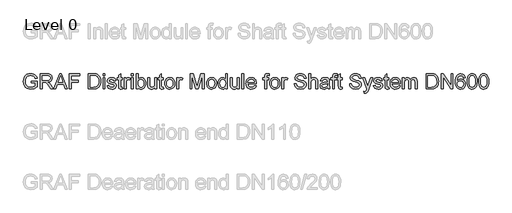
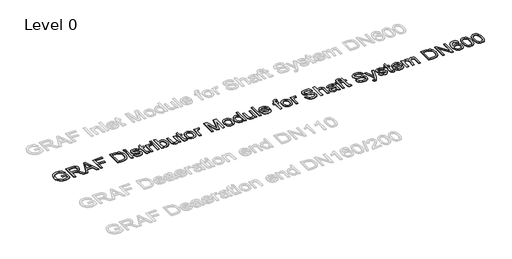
# One storey, part 7 of 25: 1 proxy.
"""IFC4 building model written with IfcOpenShell, lengths in millimetres."""

from ifc_helpers import new_model, si_unit, origin, origin_with_axes, place, context, project, spatial, polyline, outline, extrude, element, save

model = new_model("IFC4")

# Units and contexts
model_context = context("Model", 3, world=origin())
ifc_project = project(units=[si_unit("LENGTHUNIT", "METRE", prefix="MILLI")], contexts=[model_context])

# Site, building, storey
site = spatial("IfcSite", under=ifc_project)
building = spatial("IfcBuilding", under=site)
storey = spatial("IfcBuildingStorey", under=building, Name="Level 0", Elevation=0.0)

# Proxy
placement = place(None, origin())
element("IfcBuildingElementProxy", 1, Name="300mm Arial", ObjectType="300mm Arial", at=placement, inside=storey, context=model_context, shape_type="SweptSolid", body=[
    extrude(outline(polyline([(-15240.9940387, -5083.2545597), (-15240.9940387, -5045.5834434), (-15118.5629107, -5045.5834434), (-15118.5629107, -5158.2289103), (-15148.3153671, -5178.9222726), (-15179.0059225, -5193.7663111), (-15210.5610007, -5202.7058436), (-15242.9070251, -5205.6856877), (-15285.1674693, -5200.949207), (-15323.3628175, -5186.739765), (-15355.0926395, -5163.5540022), (-15377.9565055, -5131.8885595), (-15391.7796715, -5093.9047435), (-15396.3873935, -5051.7638609), (-15391.7980656, -5009.3194757), (-15378.0300819, -4969.8365406), (-15355.6536596, -4936.717964), (-15325.2390156, -4913.3666543), (-15288.1932987, -4899.5158972), (-15245.9236575, -4894.8989782), (-15214.8928112, -4897.5753197), (-15186.9889618, -4905.6043443), (-15163.4904994, -4918.4066377), (-15145.6758138, -4935.4027859), (-15132.4964413, -4957.4113262), (-15122.9039183, -4985.2507962), (-15157.6319786, -4995.0364573), (-15165.3850917, -4975.1800266), (-15174.8120678, -4960.1980323), (-15187.2832674, -4948.9040551), (-15204.169051, -4940.1116754), (-15224.3013932, -4934.4554897), (-15246.5122687, -4932.5700945), (-15272.5123287, -4934.6026425), (-15294.7415982, -4940.7002866), (-15313.1173039, -4950.0996716), (-15327.5566722, -4962.0374423), (-15346.9440533, -4991.0633317), (-15355.7732212, -5019.50061), (-15358.7162772, -5050.2187566), (-15355.175413, -5086.2436009), (-15344.5528204, -5115.8856927), (-15327.1703961, -5138.9334997), (-15303.3500369, -5155.1754898), (-15275.4737787, -5164.804801), (-15245.9236575, -5168.0145714), (-15219.831627, -5165.5957473), (-15194.3833899, -5158.3392749), (-15172.2828791, -5148.3420817), (-15156.234027, -5137.701095), (-15156.234027, -5083.2545597), (-15240.9940387, -5083.2545597)])), origin_with_axes(), (0.0, 0.0, 1.0), 10.0),
    extrude(outline(polyline([(-15057.3473467, -5200.9767982), (-15057.3473467, -4899.6078677), (-14927.4850024, -4899.6078677), (-14892.5821982, -4901.6404158), (-14867.1891434, -4907.7380598), (-14848.6294968, -4918.9952489), (-14834.2269167, -4936.5064318), (-14824.9838815, -4958.2206666), (-14821.9028698, -4982.087011), (-14827.0072325, -5011.7750881), (-14842.3203206, -5036.3863935), (-14853.9200997, -5046.4157764), (-14868.3019865, -5054.4310054), (-14905.4120827, -5064.4190016), (-14884.0013506, -5080.532233), (-14853.467145, -5119.3069952), (-14803.2144645, -5200.9767982), (-14846.9924219, -5200.9767982), (-14886.2086426, -5138.5104354), (-14914.5355562, -5097.1604991), (-14934.4379722, -5077.6259652), (-14952.3538253, -5070.4522663), (-14974.2060158, -5069.1278911), (-15019.6762304, -5069.1278911), (-15019.6762304, -5200.9767982), (-15057.3473467, -5200.9767982)]), holes=[polyline([(-15019.6762304, -5031.4567748), (-14935.3576771, -5031.4567748), (-14911.1418448, -5030.1232026), (-14892.3522719, -5026.1224859), (-14878.2072092, -5019.1879103), (-14867.9249074, -5009.0527613), (-14861.6617165, -4996.7930938), (-14859.5739861, -4983.4849626), (-14863.5563087, -4965.109257), (-14875.5032765, -4950.3020067), (-14896.058683, -4940.5347397), (-14925.8663217, -4937.278984), (-15019.6762304, -4937.278984), (-15019.6762304, -5031.4567748)])]), origin_with_axes(), (0.0, 0.0, 1.0), 10.0),
    extrude(outline(polyline([(-14791.0743586, -5200.9767982), (-14670.7769462, -4899.6078677), (-14638.6976362, -4899.6078677), (-14518.4002238, -5200.9767982), (-14558.2050557, -5200.9767982), (-14592.7123868, -5106.7990074), (-14716.835772, -5106.7990074), (-14751.2695268, -5200.9767982), (-14791.0743586, -5200.9767982)]), holes=[polyline([(-14703.003409, -5069.1278911), (-14606.4711735, -5069.1278911), (-14633.6208647, -4995.0364573), (-14654.7372912, -4937.278984), (-14673.499273, -4988.5617342), (-14703.003409, -5069.1278911)])]), origin_with_axes(), (0.0, 0.0, 1.0), 10.0),
    extrude(outline(polyline([(-14478.1539335, -5200.9767982), (-14478.1539335, -4899.6078677), (-14275.6716834, -4899.6078677), (-14275.6716834, -4937.278984), (-14440.4828172, -4937.278984), (-14440.4828172, -5026.7478853), (-14299.2161311, -5026.7478853), (-14299.2161311, -5064.4190016), (-14440.4828172, -5064.4190016), (-14440.4828172, -5200.9767982), (-14478.1539335, -5200.9767982)])), origin_with_axes(), (0.0, 0.0, 1.0), 10.0),
    extrude(outline(polyline([(-14106.15166, -5200.9767982), (-14106.15166, -4899.6078677), (-14002.1882082, -4899.6078677), (-13948.4038605, -4903.9488753), (-13924.3811662, -4912.3181907), (-13904.1108683, -4925.5067602), (-13883.2703532, -4948.4625967), (-13868.4263147, -4977.0102395), (-13859.5419645, -5010.5978657), (-13856.5805145, -5048.6736522), (-13858.5854714, -5081.0196766), (-13864.600342, -5109.484546), (-13873.7606037, -5133.7187724), (-13885.2017337, -5153.372868), (-13898.3719091, -5168.8882911), (-13912.719307, -5180.7065002), (-13929.1912233, -5189.4712888), (-13948.7349543, -5195.8264502), (-13997.185013, -5200.9767982), (-14106.15166, -5200.9767982)]), holes=[polyline([(-14068.4805437, -5163.3056819), (-14001.8203262, -5163.3056819), (-13974.2475706, -5161.9445185), (-13953.3334792, -5157.8610283), (-13937.5513416, -5151.2943347), (-13925.3744476, -5142.4835609), (-13912.2870456, -5126.1771915), (-13902.4553993, -5105.069962), (-13896.3025729, -5079.069902), (-13894.2516308, -5048.085041), (-13898.2707416, -5007.0294103), (-13910.328074, -4976.7159339), (-13928.1427596, -4955.893813), (-13949.4339301, -4943.3122488), (-13971.1021796, -4938.7873002), (-14002.8503958, -4937.278984), (-14068.4805437, -4937.278984), (-14068.4805437, -5163.3056819)])]), origin_with_axes(), (0.0, 0.0, 1.0), 10.0),
    extrude(outline(polyline([(-13809.4916191, -4937.278984), (-13809.4916191, -4899.6078677), (-13771.8205028, -4899.6078677), (-13771.8205028, -4937.278984), (-13809.4916191, -4937.278984)])), origin_with_axes(), (0.0, 0.0, 1.0), 10.0),
    extrude(outline(polyline([(-13809.4916191, -5200.9767982), (-13809.4916191, -4979.6589899), (-13771.8205028, -4979.6589899), (-13771.8205028, -5200.9767982), (-13809.4916191, -5200.9767982)])), origin_with_axes(), (0.0, 0.0, 1.0), 10.0),
    extrude(outline(polyline([(-13729.440497, -5135.0523446), (-13691.7693806, -5130.3434551), (-13685.8280864, -5146.4566865), (-13674.3317741, -5158.3024867), (-13657.2068672, -5165.5865502), (-13634.3797894, -5168.0145714), (-13611.8286231, -5165.7888853), (-13595.9729091, -5159.1118271), (-13586.5919182, -5149.4365307), (-13583.4649213, -5138.2161298), (-13586.6103123, -5128.6144097), (-13596.0464855, -5121.293558), (-13634.8212478, -5110.5514038), (-13691.5486515, -5092.1205158), (-13705.9052463, -5082.8590866), (-13716.3071097, -5070.5994191), (-13722.625483, -5056.1232626), (-13724.7316074, -5040.2123663), (-13723.0393502, -5025.6166481), (-13717.9625787, -5012.1429701), (-13709.9611453, -5000.324761), (-13699.4949025, -4990.6954497), (-13675.5457847, -4979.5486253), (-13643.1353809, -4974.9501003), (-13618.6160459, -4976.7987074), (-13597.2972843, -4982.3445284), (-13580.1539833, -4991.0449376), (-13568.1610303, -5002.357309), (-13560.2147792, -5017.118574), (-13555.211584, -5036.1656643), (-13592.8827003, -5040.8745539), (-13597.6375751, -5029.0195566), (-13607.0461572, -5020.0892211), (-13621.2004169, -5014.4882178), (-13640.1923249, -5012.6212166), (-13661.8237862, -5014.4054443), (-13676.2447605, -5019.7581274), (-13684.3565584, -5027.4836493), (-13687.0604911, -5036.3863935), (-13682.5723308, -5047.349277), (-13668.5192386, -5055.6634101), (-13636.0720466, -5063.6832376), (-13580.7793827, -5081.4151497), (-13566.1744675, -5089.8948297), (-13555.1012194, -5101.5015067), (-13548.1206586, -5116.2719688), (-13545.793805, -5134.2430043), (-13548.5253288, -5152.821045), (-13556.7199002, -5170.2954398), (-13570.0648196, -5185.2958281), (-13588.2473872, -5196.4518496), (-13610.2099423, -5203.3772282), (-13634.8948242, -5205.6856877), (-13672.8786402, -5201.2343156), (-13700.5985485, -5187.8801991), (-13719.1030129, -5165.7704912), (-13729.440497, -5135.0523446)])), origin_with_axes(), (0.0, 0.0, 1.0), 10.0),
    extrude(outline(polyline([(-13423.362677, -5169.5596758), (-13418.6537874, -5202.0804442), (-13446.8335483, -5205.6856877), (-13464.9149483, -5204.1221892), (-13478.3978234, -5199.4316938), (-13487.9259671, -5192.2028126), (-13494.1431728, -5183.0241568), (-13497.5644754, -5167.2604133), (-13498.7049096, -5140.276269), (-13498.7049096, -5017.3301062), (-13526.9582468, -5017.3301062), (-13526.9582468, -4979.6589899), (-13498.7049096, -4979.6589899), (-13498.7049096, -4925.8746422), (-13461.0337933, -4903.7281461), (-13461.0337933, -4979.6589899), (-13423.362677, -4979.6589899), (-13423.362677, -5017.3301062), (-13461.0337933, -5017.3301062), (-13461.0337933, -5139.172623), (-13459.0472305, -5158.5967923), (-13452.6092956, -5165.4761856), (-13439.770214, -5168.0145714), (-13423.362677, -5169.5596758)])), origin_with_axes(), (0.0, 0.0, 1.0), 10.0),
    extrude(outline(polyline([(-13385.6915607, -5200.9767982), (-13385.6915607, -4979.6589899), (-13352.7293339, -4979.6589899), (-13352.7293339, -5012.4004875), (-13340.5524399, -4993.4177765), (-13329.332039, -4982.2341638), (-13318.0748499, -4976.7711162), (-13305.7875913, -4974.9501003), (-13287.0256096, -4977.8563681), (-13267.9693222, -4986.5751714), (-13280.5508864, -5020.3467385), (-13293.7946383, -5014.5525971), (-13307.0383901, -5012.6212166), (-13318.2863821, -5014.4790207), (-13328.3387576, -5020.052433), (-13336.4597527, -5028.918389), (-13341.9136032, -5040.6538247), (-13346.4937341, -5061.6966748), (-13348.0204444, -5084.6525113), (-13348.0204444, -5200.9767982), (-13385.6915607, -5200.9767982)])), origin_with_axes(), (0.0, 0.0, 1.0), 10.0),
    extrude(outline(polyline([(-13244.4248745, -4937.278984), (-13244.4248745, -4899.6078677), (-13206.7537582, -4899.6078677), (-13206.7537582, -4937.278984), (-13244.4248745, -4937.278984)])), origin_with_axes(), (0.0, 0.0, 1.0), 10.0),
    extrude(outline(polyline([(-13244.4248745, -5200.9767982), (-13244.4248745, -4979.6589899), (-13206.7537582, -4979.6589899), (-13206.7537582, -5200.9767982), (-13244.4248745, -5200.9767982)])), origin_with_axes(), (0.0, 0.0, 1.0), 10.0),
    extrude(outline(polyline([(-13112.5759674, -5200.9767982), (-13150.2470837, -5200.9767982), (-13150.2470837, -4899.6078677), (-13112.5759674, -4899.6078677), (-13112.5759674, -5011.3704179), (-13100.1875413, -4995.4365289), (-13086.1988284, -4984.0551797), (-13070.6098288, -4977.2263702), (-13053.4205426, -4974.9501003), (-13034.0147674, -4977.0010425), (-13015.6758499, -4983.1538688), (-12999.4522539, -4993.0223034), (-12986.3924431, -5006.2200699), (-12976.1561266, -5022.6184099), (-12968.4030135, -5042.0885645), (-12963.51938, -5063.8211933), (-12961.8915022, -5087.0069561), (-12963.5768616, -5113.7611742), (-12968.6329398, -5137.2964248), (-12977.0597367, -5157.612708), (-12988.8572525, -5174.7100237), (-13003.01841, -5188.2618767), (-13018.5361324, -5197.9417717), (-13035.4104197, -5203.7497087), (-13053.6412718, -5205.6856877), (-13071.3961766, -5203.1886887), (-13087.1369275, -5195.6976915), (-13100.8635244, -5183.2126963), (-13112.5759674, -5165.733703), (-13112.5759674, -5200.9767982)]), holes=[polyline([(-13112.5759674, -5088.7727896), (-13110.0007935, -5120.189912), (-13102.2752716, -5141.4534914), (-13093.1471996, -5153.0739639), (-13082.5384025, -5161.3743014), (-13070.4488805, -5166.3545039), (-13056.8786334, -5168.0145714), (-13035.1368075, -5163.1217409), (-13016.5587667, -5148.4432493), (-13003.8116556, -5124.0710671), (-12999.5626185, -5090.0971648), (-13003.6369116, -5055.6266219), (-13015.8597909, -5031.5303512), (-13033.8584175, -5017.3485003), (-13055.2599526, -5012.6212166), (-13077.0017785, -5017.5140472), (-13095.5798193, -5032.1925388), (-13108.3269304, -5056.1232626), (-13112.5759674, -5088.7727896)])]), origin_with_axes(), (0.0, 0.0, 1.0), 10.0),
    extrude(outline(polyline([(-12778.2448102, -5200.9767982), (-12778.2448102, -5162.9377999), (-12791.8748381, -5181.6400008), (-12807.7489462, -5194.9987158), (-12825.8671345, -5203.0139447), (-12846.2294029, -5205.6856877), (-12864.5775174, -5203.8094895), (-12881.6564391, -5198.180895), (-12895.9854428, -5189.7196091), (-12906.0838035, -5179.3453369), (-12917.3042044, -5151.6070344), (-12919.5114964, -5116.5846685), (-12919.5114964, -4979.6589899), (-12881.8403801, -4979.6589899), (-12881.8403801, -5098.8527563), (-12879.5595117, -5137.2596366), (-12874.0688729, -5150.0711271), (-12864.6602909, -5159.8108029), (-12851.959165, -5165.9636293), (-12836.5908947, -5168.0145714), (-12820.3397075, -5165.917644), (-12805.1369841, -5159.6268619), (-12792.6014051, -5149.7216392), (-12784.3516513, -5136.78139), (-12779.7715205, -5119.0586749), (-12778.2448102, -5094.8060544), (-12778.2448102, -4979.6589899), (-12740.5736939, -4979.6589899), (-12740.5736939, -5200.9767982), (-12778.2448102, -5200.9767982)])), origin_with_axes(), (0.0, 0.0, 1.0), 10.0),
    extrude(outline(polyline([(-12608.7247868, -5169.5596758), (-12604.0158973, -5202.0804442), (-12632.1956581, -5205.6856877), (-12650.2770582, -5204.1221892), (-12663.7599333, -5199.4316938), (-12673.288077, -5192.2028126), (-12679.5052827, -5183.0241568), (-12682.9265853, -5167.2604133), (-12684.0670195, -5140.276269), (-12684.0670195, -5017.3301062), (-12712.3203567, -5017.3301062), (-12712.3203567, -4979.6589899), (-12684.0670195, -4979.6589899), (-12684.0670195, -4925.8746422), (-12646.3959032, -4903.7281461), (-12646.3959032, -4979.6589899), (-12608.7247868, -4979.6589899), (-12608.7247868, -5017.3301062), (-12646.3959032, -5017.3301062), (-12646.3959032, -5139.172623), (-12644.4093404, -5158.5967923), (-12637.9714055, -5165.4761856), (-12625.1323238, -5168.0145714), (-12608.7247868, -5169.5596758)])), origin_with_axes(), (0.0, 0.0, 1.0), 10.0),
    extrude(outline(polyline([(-12580.4714496, -5090.317894), (-12578.4343031, -5061.6552881), (-12572.3228634, -5036.9566106), (-12562.1371307, -5016.2218617), (-12547.8771048, -4999.4510412), (-12533.52051, -4988.7318796), (-12517.673993, -4981.0753356), (-12500.337554, -4976.4814091), (-12481.5111929, -4974.9501003), (-12460.7281594, -4976.8148022), (-12441.9362873, -4982.4089078), (-12425.1355764, -4991.7324171), (-12410.3260268, -5004.7853302), (-12398.238804, -5021.1261885), (-12389.6050735, -5040.3135338), (-12384.4248351, -5062.3473661), (-12382.698089, -5087.2276853), (-12385.7515096, -5125.2850777), (-12394.9117713, -5154.2557848), (-12409.9121596, -5175.9516255), (-12430.4859602, -5192.1844185), (-12454.9225217, -5202.3103704), (-12481.5111929, -5205.6856877), (-12502.597729, -5203.8278836), (-12521.5643451, -5198.2544714), (-12538.4110413, -5188.965451), (-12553.1378174, -5175.9608225), (-12565.0962815, -5159.461315), (-12573.6380416, -5139.6876578), (-12578.7630976, -5116.6398508), (-12580.4714496, -5090.317894)]), holes=[polyline([(-12542.8003333, -5090.2443176), (-12538.4409317, -5124.3377815), (-12525.3627267, -5148.6271903), (-12505.68104, -5163.1677261), (-12481.5111929, -5168.0145714), (-12457.4517104, -5163.140135), (-12437.8068119, -5148.5168257), (-12424.728607, -5123.9055202), (-12420.3692053, -5089.0670952), (-12424.7561981, -5055.9669127), (-12437.9171765, -5032.0085978), (-12457.5896662, -5017.4680619), (-12481.5111929, -5012.6212166), (-12505.68104, -5017.4496678), (-12525.3627267, -5031.9350214), (-12538.4409317, -5056.1692478), (-12542.8003333, -5090.2443176)])]), origin_with_axes(), (0.0, 0.0, 1.0), 10.0),
    extrude(outline(polyline([(-12340.3180832, -5200.9767982), (-12340.3180832, -4979.6589899), (-12307.3558564, -4979.6589899), (-12307.3558564, -5012.4004875), (-12295.1789624, -4993.4177765), (-12283.9585615, -4982.2341638), (-12272.7013725, -4976.7711162), (-12260.4141138, -4974.9501003), (-12241.6521321, -4977.8563681), (-12222.5958447, -4986.5751714), (-12235.1774089, -5020.3467385), (-12248.4211608, -5014.5525971), (-12261.6649126, -5012.6212166), (-12272.9129046, -5014.4790207), (-12282.9652801, -5020.052433), (-12291.0862752, -5028.918389), (-12296.5401257, -5040.6538247), (-12301.1202566, -5061.6966748), (-12302.6469669, -5084.6525113), (-12302.6469669, -5200.9767982), (-12340.3180832, -5200.9767982)])), origin_with_axes(), (0.0, 0.0, 1.0), 10.0),
    extrude(outline(polyline([(-12076.620269, -5200.9767982), (-12076.620269, -4899.6078677), (-12011.7994615, -4899.6078677), (-11950.1424391, -5112.0229317), (-11937.7080276, -5156.3895004), (-11924.2435466, -5108.3441118), (-11863.6165938, -4899.6078677), (-11798.7957863, -4899.6078677), (-11798.7957863, -5200.9767982), (-11836.4669026, -5200.9767982), (-11836.4669026, -4937.278984), (-11912.1770172, -5200.9767982), (-11963.2390381, -5200.9767982), (-12038.9491527, -4937.278984), (-12038.9491527, -5200.9767982), (-12076.620269, -5200.9767982)])), origin_with_axes(), (0.0, 0.0, 1.0), 10.0),
    extrude(outline(polyline([(-11746.9980013, -5090.317894), (-11744.9608548, -5061.6552881), (-11738.8494152, -5036.9566106), (-11728.6636824, -5016.2218617), (-11714.4036566, -4999.4510412), (-11700.0470617, -4988.7318796), (-11684.2005448, -4981.0753356), (-11666.8641057, -4976.4814091), (-11648.0377446, -4974.9501003), (-11627.2547112, -4976.8148022), (-11608.462839, -4982.4089078), (-11591.6621281, -4991.7324171), (-11576.8525786, -5004.7853302), (-11564.7653558, -5021.1261885), (-11556.1316252, -5040.3135338), (-11550.9513869, -5062.3473661), (-11549.2246407, -5087.2276853), (-11552.2780613, -5125.2850777), (-11561.438323, -5154.2557848), (-11576.4387113, -5175.9516255), (-11597.0125119, -5192.1844185), (-11621.4490734, -5202.3103704), (-11648.0377446, -5205.6856877), (-11669.1242808, -5203.8278836), (-11688.0908969, -5198.2544714), (-11704.937593, -5188.965451), (-11719.6643691, -5175.9608225), (-11731.6228332, -5159.461315), (-11740.1645933, -5139.6876578), (-11745.2896493, -5116.6398508), (-11746.9980013, -5090.317894)]), holes=[polyline([(-11709.326885, -5090.2443176), (-11704.9674834, -5124.3377815), (-11691.8892785, -5148.6271903), (-11672.2075917, -5163.1677261), (-11648.0377446, -5168.0145714), (-11623.9782622, -5163.140135), (-11604.3333636, -5148.5168257), (-11591.2551587, -5123.9055202), (-11586.895757, -5089.0670952), (-11591.2827498, -5055.9669127), (-11604.4437282, -5032.0085978), (-11624.1162179, -5017.4680619), (-11648.0377446, -5012.6212166), (-11672.2075917, -5017.4496678), (-11691.8892785, -5031.9350214), (-11704.9674834, -5056.1692478), (-11709.326885, -5090.2443176)])]), origin_with_axes(), (0.0, 0.0, 1.0), 10.0),
    extrude(outline(polyline([(-11370.2868383, -5200.9767982), (-11370.2868383, -5165.4393974), (-11381.5578229, -5183.0471494), (-11395.2108435, -5195.6241151), (-11411.2458999, -5203.1702946), (-11429.6629923, -5205.6856877), (-11454.0167804, -5202.043656), (-11476.3104293, -5191.1175607), (-11495.1827756, -5173.6707571), (-11509.2726561, -5150.4666002), (-11518.0466416, -5122.4431893), (-11520.9713035, -5090.5386232), (-11518.2765679, -5059.0295303), (-11510.192361, -5030.573858), (-11496.72788, -5006.790287), (-11477.8923219, -4989.2974982), (-11455.1112293, -4978.5369498), (-11429.8101451, -4974.9501003), (-11411.3792571, -4977.5160773), (-11395.0820848, -4985.214008), (-11381.2681158, -4997.013823), (-11370.2868383, -5011.8854527), (-11370.2868383, -4899.6078677), (-11332.615722, -4899.6078677), (-11332.615722, -5200.9767982), (-11370.2868383, -5200.9767982)]), holes=[polyline([(-11483.3001872, -5090.3914704), (-11479.0511502, -5124.4665402), (-11466.304039, -5148.7007667), (-11447.7811806, -5163.1861202), (-11426.2049016, -5168.0145714), (-11404.6378196, -5163.4068494), (-11386.5840107, -5149.5836835), (-11374.3611314, -5126.2875561), (-11370.2868383, -5093.26095), (-11374.4347078, -5057.1533322), (-11386.8783163, -5032.1189624), (-11405.3919777, -5017.4956531), (-11427.7500059, -5012.6212166), (-11449.5470141, -5017.302515), (-11467.407685, -5031.3464102), (-11479.3270617, -5055.470272), (-11483.3001872, -5090.3914704)])]), origin_with_axes(), (0.0, 0.0, 1.0), 10.0),
    extrude(outline(polyline([(-11134.8423614, -5200.9767982), (-11134.8423614, -5162.9377999), (-11148.4723893, -5181.6400008), (-11164.3464974, -5194.9987158), (-11182.4646856, -5203.0139447), (-11202.8269541, -5205.6856877), (-11221.1750686, -5203.8094895), (-11238.2539902, -5198.180895), (-11252.5829939, -5189.7196091), (-11262.6813547, -5179.3453369), (-11273.9017555, -5151.6070344), (-11276.1090475, -5116.5846685), (-11276.1090475, -4979.6589899), (-11238.4379312, -4979.6589899), (-11238.4379312, -5098.8527563), (-11236.1570628, -5137.2596366), (-11230.6664241, -5150.0711271), (-11221.257842, -5159.8108029), (-11208.5567162, -5165.9636293), (-11193.1884458, -5168.0145714), (-11176.9372587, -5165.917644), (-11161.7345352, -5159.6268619), (-11149.1989562, -5149.7216392), (-11140.9492025, -5136.78139), (-11136.3690717, -5119.0586749), (-11134.8423614, -5094.8060544), (-11134.8423614, -4979.6589899), (-11097.1712451, -4979.6589899), (-11097.1712451, -5200.9767982), (-11134.8423614, -5200.9767982)])), origin_with_axes(), (0.0, 0.0, 1.0), 10.0),
    extrude(outline(polyline([(-11045.3734601, -5200.9767982), (-11045.3734601, -4899.6078677), (-11007.7023438, -4899.6078677), (-11007.7023438, -5200.9767982), (-11045.3734601, -5200.9767982)])), origin_with_axes(), (0.0, 0.0, 1.0), 10.0),
    extrude(outline(polyline([(-10796.243773, -5135.0523446), (-10759.3084207, -5139.7612342), (-10772.6165519, -5167.5915071), (-10793.85254, -5188.3952339), (-10822.5381386, -5201.3630743), (-10858.195101, -5205.6856877), (-10881.5694033, -5203.8209859), (-10902.3961227, -5198.2268803), (-10920.6752594, -5188.9033709), (-10936.4068132, -5175.8504579), (-10949.0573553, -5159.4314246), (-10958.0934568, -5140.0095545), (-10963.5151177, -5117.5848477), (-10965.322338, -5092.157304), (-10963.4967236, -5065.8675369), (-10958.0198804, -5042.6955698), (-10948.8918084, -5022.6414025), (-10936.1125076, -5005.7050351), (-10920.4223405, -4992.2497512), (-10902.5616696, -4982.638834), (-10882.530495, -4976.8722838), (-10860.3288166, -4974.9501003), (-10838.8422088, -4976.8676852), (-10819.4111417, -4982.6204399), (-10802.0356152, -4992.2083644), (-10786.7156293, -5005.6314587), (-10774.2099408, -5022.5310379), (-10765.2773061, -5042.548417), (-10759.9177252, -5065.6835959), (-10758.1311983, -5091.9365748), (-10758.3519275, -5102.0901179), (-10927.6512217, -5102.0901179), (-10921.1305133, -5130.2882728), (-10905.9829722, -5151.0184232), (-10884.1215846, -5163.7655344), (-10857.459337, -5168.0145714), (-10837.4097683, -5166.0464027), (-10820.5239847, -5160.1418967), (-10806.8019863, -5149.9331713), (-10796.243773, -5135.0523446)]), holes=[polyline([(-10927.6512217, -5064.4190016), (-10795.8023146, -5064.4190016), (-10800.8974802, -5044.5165856), (-10810.8854764, -5030.2795524), (-10832.8480315, -5017.0358006), (-10860.4759694, -5012.6212166), (-10885.8690241, -5016.1436868), (-10906.865889, -5026.7110971), (-10921.4616071, -5043.1830134), (-10927.6512217, -5064.4190016)])]), origin_with_axes(), (0.0, 0.0, 1.0), 10.0),
    extrude(outline(polyline([(-10593.3200645, -5200.9767982), (-10593.3200645, -5017.3301062), (-10626.2822912, -5017.3301062), (-10626.2822912, -4979.6589899), (-10593.3200645, -4979.6589899), (-10593.3200645, -4957.365341), (-10589.3469389, -4925.9482186), (-10581.7685698, -4913.4218366), (-10570.0699224, -4903.5074169), (-10553.6991736, -4897.0510879), (-10532.1045005, -4894.8989782), (-10497.7443221, -4899.0192565), (-10503.2625521, -4934.3359281), (-10524.9675898, -4932.5700945), (-10539.2873964, -4934.133593), (-10548.6959785, -4938.8240884), (-10553.9107057, -4947.782015), (-10555.6489482, -4962.1478069), (-10555.6489482, -4979.6589899), (-10513.2689423, -4979.6589899), (-10513.2689423, -5017.3301062), (-10555.6489482, -5017.3301062), (-10555.6489482, -5200.9767982), (-10593.3200645, -5200.9767982)])), origin_with_axes(), (0.0, 0.0, 1.0), 10.0),
    extrude(outline(polyline([(-10489.7244946, -5090.317894), (-10487.6873481, -5061.6552881), (-10481.5759084, -5036.9566106), (-10471.3901757, -5016.2218617), (-10457.1301499, -4999.4510412), (-10442.773555, -4988.7318796), (-10426.9270381, -4981.0753356), (-10409.590599, -4976.4814091), (-10390.7642379, -4974.9501003), (-10369.9812045, -4976.8148022), (-10351.1893323, -4982.4089078), (-10334.3886214, -4991.7324171), (-10319.5790719, -5004.7853302), (-10307.4918491, -5021.1261885), (-10298.8581185, -5040.3135338), (-10293.6778801, -5062.3473661), (-10291.951134, -5087.2276853), (-10295.0045546, -5125.2850777), (-10304.1648163, -5154.2557848), (-10319.1652046, -5175.9516255), (-10339.7390052, -5192.1844185), (-10364.1755667, -5202.3103704), (-10390.7642379, -5205.6856877), (-10411.850774, -5203.8278836), (-10430.8173902, -5198.2544714), (-10447.6640863, -5188.965451), (-10462.3908624, -5175.9608225), (-10474.3493265, -5159.461315), (-10482.8910866, -5139.6876578), (-10488.0161426, -5116.6398508), (-10489.7244946, -5090.317894)]), holes=[polyline([(-10452.0533783, -5090.2443176), (-10447.6939767, -5124.3377815), (-10434.6157718, -5148.6271903), (-10414.934085, -5163.1677261), (-10390.7642379, -5168.0145714), (-10366.7047554, -5163.140135), (-10347.0598569, -5148.5168257), (-10333.981652, -5123.9055202), (-10329.6222503, -5089.0670952), (-10334.0092431, -5055.9669127), (-10347.1702215, -5032.0085978), (-10366.8427112, -5017.4680619), (-10390.7642379, -5012.6212166), (-10414.934085, -5017.4496678), (-10434.6157718, -5031.9350214), (-10447.6939767, -5056.1692478), (-10452.0533783, -5090.2443176)])]), origin_with_axes(), (0.0, 0.0, 1.0), 10.0),
    extrude(outline(polyline([(-10249.5711282, -5200.9767982), (-10249.5711282, -4979.6589899), (-10216.6089014, -4979.6589899), (-10216.6089014, -5012.4004875), (-10204.4320074, -4993.4177765), (-10193.2116065, -4982.2341638), (-10181.9544175, -4976.7711162), (-10169.6671588, -4974.9501003), (-10150.9051771, -4977.8563681), (-10131.8488897, -4986.5751714), (-10144.430454, -5020.3467385), (-10157.6742058, -5014.5525971), (-10170.9179576, -5012.6212166), (-10182.1659496, -5014.4790207), (-10192.2183251, -5020.052433), (-10200.3393202, -5028.918389), (-10205.7931708, -5040.6538247), (-10210.3733016, -5061.6966748), (-10211.9000119, -5084.6525113), (-10211.9000119, -5200.9767982), (-10249.5711282, -5200.9767982)])), origin_with_axes(), (0.0, 0.0, 1.0), 10.0),
    extrude(outline(polyline([(-9999.9999826, -5097.3812283), (-9962.3288663, -5097.3812283), (-9958.0062529, -5118.2861227), (-9950.1887605, -5135.0891328), (-9937.9934724, -5148.4248552), (-9920.5374717, -5158.9278861), (-9899.200316, -5165.7429001), (-9875.3615627, -5168.0145714), (-9854.3738949, -5166.2947231), (-9835.9981892, -5161.1351781), (-9821.1081654, -5152.9681978), (-9810.5775433, -5142.2260435), (-9804.3143524, -5129.8927997), (-9802.226622, -5116.9525505), (-9803.7901205, -5104.3433951), (-9808.480616, -5093.444891), (-9818.0087596, -5084.1466736), (-9834.0852028, -5076.3383782), (-9888.9364083, -5061.9541922), (-9924.9428586, -5052.4352456), (-9947.9814685, -5043.3761514), (-9966.7342532, -5030.7026167), (-9980.0239903, -5015.3435434), (-9987.9426503, -4997.6300253), (-9990.5822036, -4977.8931563), (-9987.3172509, -4955.8294336), (-9977.5223927, -4935.2556331), (-9961.4551466, -4917.8180265), (-9939.3730298, -4905.1628859), (-9912.8671321, -4897.4649551), (-9883.528543, -4894.8989782), (-9851.7435386, -4897.5845168), (-9823.9316598, -4905.6411325), (-9801.0861879, -4918.9032784), (-9784.2004043, -4937.2054076), (-9773.5134323, -4959.407086), (-9769.2643953, -4984.3678794), (-9806.9355116, -4984.3678794), (-9813.8516931, -4961.8902895), (-9828.2726673, -4945.6666935), (-9850.8054395, -4935.8442443), (-9882.057015, -4932.5700945), (-9914.0443545, -4935.8074561), (-9935.9885155, -4945.5195407), (-9948.6804443, -4959.8117562), (-9952.9110873, -4976.7895103), (-9949.912849, -4991.2656668), (-9940.9181342, -5002.909132), (-9919.6545549, -5013.3201924), (-9879.4082646, -5023.9519821), (-9837.8743874, -5034.0503429), (-9812.7480471, -5042.8611167), (-9791.2729356, -5056.5279328), (-9776.2909414, -5073.3953223), (-9767.4893646, -5093.2793441), (-9764.5555057, -5115.9960573), (-9767.930823, -5139.2186082), (-9778.056775, -5161.0616017), (-9794.5194942, -5179.8603717), (-9816.9051136, -5193.9502521), (-9843.8248786, -5202.7518288), (-9873.8900347, -5205.6856877), (-9910.7977959, -5202.5219026), (-9941.1756516, -5193.0305471), (-9965.3730899, -5177.1748331), (-9983.7395985, -5154.9179724), (-9995.5302164, -5127.8050693), (-9999.9999826, -5097.3812283)])), origin_with_axes(), (0.0, 0.0, 1.0), 10.0),
    extrude(outline(polyline([(-9712.7577208, -5200.9767982), (-9712.7577208, -4899.6078677), (-9675.0866045, -4899.6078677), (-9675.0866045, -5010.4139247), (-9661.249643, -4994.8985015), (-9645.7112272, -4983.8160564), (-9628.4713572, -4977.1665894), (-9609.530033, -4974.9501003), (-9586.7765316, -4977.3689245), (-9567.2236035, -4984.6253968), (-9551.827742, -4996.1493003), (-9541.5454403, -5011.3704179), (-9535.7512988, -5032.2845093), (-9533.8199184, -5060.8873344), (-9533.8199184, -5200.9767982), (-9571.4910347, -5200.9767982), (-9571.4910347, -5064.7868836), (-9574.4892729, -5041.2056477), (-9583.4839877, -5025.0556281), (-9597.9785383, -5015.7298195), (-9617.4762841, -5012.6212166), (-9633.3963774, -5014.718144), (-9648.3415835, -5021.0089261), (-9660.7208126, -5030.8865577), (-9668.9429752, -5043.7440334), (-9673.5506972, -5060.8321521), (-9675.0866045, -5083.4017125), (-9675.0866045, -5200.9767982), (-9712.7577208, -5200.9767982)])), origin_with_axes(), (0.0, 0.0, 1.0), 10.0),
    extrude(outline(polyline([(-9340.7554473, -5172.7234609), (-9358.7540739, -5188.1561106), (-9377.2861294, -5198.2544714), (-9396.7746781, -5203.8278836), (-9417.6427843, -5205.6856877), (-9449.124286, -5201.2159215), (-9472.346837, -5187.8066228), (-9486.6666436, -5167.4443543), (-9491.4399125, -5142.1156789), (-9489.6372907, -5126.4990883), (-9484.2294254, -5112.3172373), (-9475.8877012, -5100.1771315), (-9465.2835027, -5090.685776), (-9438.9063636, -5078.324941), (-9406.3120188, -5072.6595583), (-9367.7947739, -5066.6998699), (-9340.9761765, -5059.710112), (-9340.7554473, -5051.3224025), (-9343.3490154, -5034.5101954), (-9351.1297196, -5023.5105237), (-9368.5305379, -5015.3435434), (-9392.7739614, -5012.6212166), (-9415.2147631, -5014.4330355), (-9430.8865361, -5019.868492), (-9441.5735081, -5029.9208675), (-9449.0599067, -5045.5834434), (-9486.731023, -5040.8745539), (-9480.1919205, -5020.2731621), (-9470.4338506, -5004.0863544), (-9456.5463053, -4991.7071252), (-9437.6187766, -4982.5284694), (-9414.4698021, -4976.8446926), (-9387.9179191, -4974.9501003), (-9362.451288, -4976.6239634), (-9342.2637635, -4981.6455527), (-9327.0426459, -4989.1963306), (-9316.4752356, -4998.4577598), (-9309.4670836, -5009.9080869), (-9304.923741, -5024.0255585), (-9303.084331, -5056.9877853), (-9303.084331, -5103.8559515), (-9301.1713446, -5169.3021584), (-9293.6665519, -5200.9767982), (-9331.3376682, -5200.9767982), (-9340.7554473, -5172.7234609)]), holes=[polyline([(-9340.7554473, -5097.3812283), (-9401.5295529, -5108.932723), (-9433.9399567, -5115.0395641), (-9448.6184483, -5124.972378), (-9453.7687962, -5139.4669286), (-9450.963696, -5150.6689353), (-9442.5483954, -5159.8475911), (-9428.7068353, -5165.9728263), (-9409.6229568, -5168.0145714), (-9389.3894471, -5165.7612942), (-9371.5103821, -5159.0014625), (-9357.0158315, -5149.0410575), (-9346.9358648, -5137.1860602), (-9342.4660986, -5124.972378), (-9340.9761765, -5108.0498062), (-9340.7554473, -5097.3812283)])]), origin_with_axes(), (0.0, 0.0, 1.0), 10.0),
    extrude(outline(polyline([(-9241.868767, -5200.9767982), (-9241.868767, -5017.3301062), (-9274.8309938, -5017.3301062), (-9274.8309938, -4979.6589899), (-9241.868767, -4979.6589899), (-9241.868767, -4957.365341), (-9237.8956414, -4925.9482186), (-9230.3172723, -4913.4218366), (-9218.6186249, -4903.5074169), (-9202.2478761, -4897.0510879), (-9180.653203, -4894.8989782), (-9146.2930246, -4899.0192565), (-9151.8112546, -4934.3359281), (-9173.5162923, -4932.5700945), (-9187.8360989, -4934.133593), (-9197.244681, -4938.8240884), (-9202.4594083, -4947.782015), (-9204.1976507, -4962.1478069), (-9204.1976507, -4979.6589899), (-9161.8176448, -4979.6589899), (-9161.8176448, -5017.3301062), (-9204.1976507, -5017.3301062), (-9204.1976507, -5200.9767982), (-9241.868767, -5200.9767982)])), origin_with_axes(), (0.0, 0.0, 1.0), 10.0),
    extrude(outline(polyline([(-9048.8042959, -5169.5596758), (-9044.0954064, -5202.0804442), (-9072.2751672, -5205.6856877), (-9090.3565673, -5204.1221892), (-9103.8394424, -5199.4316938), (-9113.3675861, -5192.2028126), (-9119.5847918, -5183.0241568), (-9123.0060943, -5167.2604133), (-9124.1465285, -5140.276269), (-9124.1465285, -5017.3301062), (-9152.3998658, -5017.3301062), (-9152.3998658, -4979.6589899), (-9124.1465285, -4979.6589899), (-9124.1465285, -4925.8746422), (-9086.4754122, -4903.7281461), (-9086.4754122, -4979.6589899), (-9048.8042959, -4979.6589899), (-9048.8042959, -5017.3301062), (-9086.4754122, -5017.3301062), (-9086.4754122, -5139.172623), (-9084.4888495, -5158.5967923), (-9078.0509145, -5165.4761856), (-9065.2118329, -5168.0145714), (-9048.8042959, -5169.5596758)])), origin_with_axes(), (0.0, 0.0, 1.0), 10.0),
    extrude(outline(polyline([(-8902.8287202, -5097.3812283), (-8865.1576039, -5097.3812283), (-8860.8349905, -5118.2861227), (-8853.0174981, -5135.0891328), (-8840.8222099, -5148.4248552), (-8823.3662093, -5158.9278861), (-8802.0290536, -5165.7429001), (-8778.1903003, -5168.0145714), (-8757.2026324, -5166.2947231), (-8738.8269268, -5161.1351781), (-8723.936903, -5152.9681978), (-8713.4062809, -5142.2260435), (-8707.1430899, -5129.8927997), (-8705.0553596, -5116.9525505), (-8706.6188581, -5104.3433951), (-8711.3093535, -5093.444891), (-8720.8374972, -5084.1466736), (-8736.9139404, -5076.3383782), (-8791.7651459, -5061.9541922), (-8827.7715962, -5052.4352456), (-8850.8102061, -5043.3761514), (-8869.5629908, -5030.7026167), (-8882.8527279, -5015.3435434), (-8890.7713878, -4997.6300253), (-8893.4109412, -4977.8931563), (-8890.1459885, -4955.8294336), (-8880.3511303, -4935.2556331), (-8864.2838842, -4917.8180265), (-8842.2017674, -4905.1628859), (-8815.6958697, -4897.4649551), (-8786.3572806, -4894.8989782), (-8754.5722762, -4897.5845168), (-8726.7603973, -4905.6411325), (-8703.9149254, -4918.9032784), (-8687.0291419, -4937.2054076), (-8676.3421699, -4959.407086), (-8672.0931329, -4984.3678794), (-8709.7642492, -4984.3678794), (-8716.6804307, -4961.8902895), (-8731.1014049, -4945.6666935), (-8753.6341771, -4935.8442443), (-8784.8857526, -4932.5700945), (-8816.8730921, -4935.8074561), (-8838.8172531, -4945.5195407), (-8851.5091819, -4959.8117562), (-8855.7398249, -4976.7895103), (-8852.7415866, -4991.2656668), (-8843.7468718, -5002.909132), (-8822.4832925, -5013.3201924), (-8782.2370022, -5023.9519821), (-8740.703125, -5034.0503429), (-8715.5767847, -5042.8611167), (-8694.1016732, -5056.5279328), (-8679.119679, -5073.3953223), (-8670.3181022, -5093.2793441), (-8667.3842433, -5115.9960573), (-8670.7595606, -5139.2186082), (-8680.8855125, -5161.0616017), (-8697.3482318, -5179.8603717), (-8719.7338512, -5193.9502521), (-8746.6536162, -5202.7518288), (-8776.7187723, -5205.6856877), (-8813.6265335, -5202.5219026), (-8844.0043892, -5193.0305471), (-8868.2018274, -5177.1748331), (-8886.568336, -5154.9179724), (-8898.358954, -5127.8050693), (-8902.8287202, -5097.3812283)])), origin_with_axes(), (0.0, 0.0, 1.0), 10.0),
    extrude(outline(polyline([(-8615.5864584, -5285.7368099), (-8620.2953479, -5249.4636451), (-8601.1654842, -5252.7745831), (-8583.2864192, -5248.6175166), (-8572.3235358, -5237.0292337), (-8562.0228399, -5209.2909313), (-8559.0797839, -5200.1674578), (-8639.1309061, -4979.6589899), (-8599.3996506, -4979.6589899), (-8556.9460684, -5102.5315763), (-8542.1572122, -5151.6806108), (-8527.368356, -5108.2705354), (-8483.7375513, -4979.6589899), (-8444.3006014, -4979.6589899), (-8521.3350912, -5206.2742989), (-8541.3478718, -5255.4233335), (-8551.5933853, -5271.1135006), (-8563.2000623, -5281.9844135), (-8576.6829374, -5288.3303779), (-8592.5570455, -5290.4456994), (-8615.5864584, -5285.7368099)])), origin_with_axes(), (0.0, 0.0, 1.0), 10.0),
    extrude(outline(polyline([(-8427.2308769, -5135.0523446), (-8389.5597606, -5130.3434551), (-8383.6184663, -5146.4566865), (-8372.122154, -5158.3024867), (-8354.9972471, -5165.5865502), (-8332.1701693, -5168.0145714), (-8309.619003, -5165.7888853), (-8293.763289, -5159.1118271), (-8284.3822981, -5149.4365307), (-8281.2553012, -5138.2161298), (-8284.4006922, -5128.6144097), (-8293.8368654, -5121.293558), (-8332.6116277, -5110.5514038), (-8389.3390314, -5092.1205158), (-8403.6956262, -5082.8590866), (-8414.0974896, -5070.5994191), (-8420.4158629, -5056.1232626), (-8422.5219873, -5040.2123663), (-8420.8297302, -5025.6166481), (-8415.7529586, -5012.1429701), (-8407.7515252, -5000.324761), (-8397.2852825, -4990.6954497), (-8373.3361646, -4979.5486253), (-8340.9257608, -4974.9501003), (-8316.4064258, -4976.7987074), (-8295.0876642, -4982.3445284), (-8277.9443632, -4991.0449376), (-8265.9514102, -5002.357309), (-8258.0051591, -5017.118574), (-8253.001964, -5036.1656643), (-8290.6730803, -5040.8745539), (-8295.427955, -5029.0195566), (-8304.8365371, -5020.0892211), (-8318.9907968, -5014.4882178), (-8337.9827048, -5012.6212166), (-8359.6141662, -5014.4054443), (-8374.0351404, -5019.7581274), (-8382.1469384, -5027.4836493), (-8384.850871, -5036.3863935), (-8380.3627107, -5047.349277), (-8366.3096185, -5055.6634101), (-8333.8624265, -5063.6832376), (-8278.5697626, -5081.4151497), (-8263.9648474, -5089.8948297), (-8252.8915994, -5101.5015067), (-8245.9110385, -5116.2719688), (-8243.5841849, -5134.2430043), (-8246.3157087, -5152.821045), (-8254.5102801, -5170.2954398), (-8267.8551995, -5185.2958281), (-8286.0377671, -5196.4518496), (-8308.0003222, -5203.3772282), (-8332.6852041, -5205.6856877), (-8370.6690201, -5201.2343156), (-8398.3889284, -5187.8801991), (-8416.8933928, -5165.7704912), (-8427.2308769, -5135.0523446)])), origin_with_axes(), (0.0, 0.0, 1.0), 10.0),
    extrude(outline(polyline([(-8121.1530569, -5169.5596758), (-8116.4441673, -5202.0804442), (-8144.6239282, -5205.6856877), (-8162.7053282, -5204.1221892), (-8176.1882034, -5199.4316938), (-8185.716347, -5192.2028126), (-8191.9335528, -5183.0241568), (-8195.3548553, -5167.2604133), (-8196.4952895, -5140.276269), (-8196.4952895, -5017.3301062), (-8224.7486267, -5017.3301062), (-8224.7486267, -4979.6589899), (-8196.4952895, -4979.6589899), (-8196.4952895, -4925.8746422), (-8158.8241732, -4903.7281461), (-8158.8241732, -4979.6589899), (-8121.1530569, -4979.6589899), (-8121.1530569, -5017.3301062), (-8158.8241732, -5017.3301062), (-8158.8241732, -5139.172623), (-8156.8376104, -5158.5967923), (-8150.3996755, -5165.4761856), (-8137.5605939, -5168.0145714), (-8121.1530569, -5169.5596758)])), origin_with_axes(), (0.0, 0.0, 1.0), 10.0),
    extrude(outline(polyline([(-7928.5300442, -5135.0523446), (-7891.5946919, -5139.7612342), (-7904.9028231, -5167.5915071), (-7926.1388112, -5188.3952339), (-7954.8244098, -5201.3630743), (-7990.4813722, -5205.6856877), (-8013.8556745, -5203.8209859), (-8034.6823939, -5198.2268803), (-8052.9615306, -5188.9033709), (-8068.6930844, -5175.8504579), (-8081.3436265, -5159.4314246), (-8090.379728, -5140.0095545), (-8095.8013889, -5117.5848477), (-8097.6086092, -5092.157304), (-8095.7829948, -5065.8675369), (-8090.3061516, -5042.6955698), (-8081.1780796, -5022.6414025), (-8068.3987788, -5005.7050351), (-8052.7086117, -4992.2497512), (-8034.8479408, -4982.638834), (-8014.8167662, -4976.8722838), (-7992.6150878, -4974.9501003), (-7971.12848, -4976.8676852), (-7951.6974129, -4982.6204399), (-7934.3218864, -4992.2083644), (-7919.0019005, -5005.6314587), (-7906.496212, -5022.5310379), (-7897.5635773, -5042.548417), (-7892.2039964, -5065.6835959), (-7890.4174695, -5091.9365748), (-7890.6381987, -5102.0901179), (-8059.9374929, -5102.0901179), (-8053.4167845, -5130.2882728), (-8038.2692434, -5151.0184232), (-8016.4078558, -5163.7655344), (-7989.7456082, -5168.0145714), (-7969.6960395, -5166.0464027), (-7952.8102559, -5160.1418967), (-7939.0882575, -5149.9331713), (-7928.5300442, -5135.0523446)]), holes=[polyline([(-8059.9374929, -5064.4190016), (-7928.0885858, -5064.4190016), (-7933.1837514, -5044.5165856), (-7943.1717476, -5030.2795524), (-7965.1343027, -5017.0358006), (-7992.7622406, -5012.6212166), (-8018.1552953, -5016.1436868), (-8039.1521602, -5026.7110971), (-8053.7478783, -5043.1830134), (-8059.9374929, -5064.4190016)])]), origin_with_axes(), (0.0, 0.0, 1.0), 10.0),
    extrude(outline(polyline([(-7852.7463532, -5200.9767982), (-7852.7463532, -4979.6589899), (-7815.0752369, -4979.6589899), (-7815.0752369, -5016.0793074), (-7803.7444714, -4999.3498737), (-7789.1763444, -4986.2440776), (-7771.8674966, -4977.7735947), (-7752.3145685, -4974.9501003), (-7731.3636889, -4977.828777), (-7714.5698758, -4986.4648068), (-7702.0250998, -5000.2879728), (-7693.8213313, -5018.7280578), (-7680.0901358, -4999.5752014), (-7664.4275599, -4985.8945897), (-7646.8336035, -4977.6862227), (-7627.3082666, -4974.9501003), (-7598.99055, -4979.50264), (-7578.0488674, -4993.1602591), (-7565.1086182, -5016.2908395), (-7560.7952018, -5049.2622634), (-7560.7952018, -5200.9767982), (-7598.4663181, -5200.9767982), (-7598.4663181, -5065.4490712), (-7601.9611971, -5033.9951606), (-7606.8724217, -5025.3223425), (-7614.6163377, -5018.5073286), (-7624.5767427, -5014.0927446), (-7636.1374344, -5012.6212166), (-7656.5456881, -5016.3920071), (-7673.1831514, -5027.7043784), (-7684.2472024, -5047.3308829), (-7687.9352194, -5076.0440726), (-7687.9352194, -5200.9767982), (-7725.6063357, -5200.9767982), (-7725.6063357, -5061.2552164), (-7727.7860365, -5039.9548489), (-7734.325139, -5024.7613225), (-7745.8306484, -5015.6562431), (-7762.90957, -5012.6212166), (-7777.4225147, -5014.6445676), (-7790.7950252, -5020.7146205), (-7801.8314851, -5030.6842226), (-7809.3362778, -5044.406221), (-7813.6404971, -5063.4441143), (-7815.0752369, -5089.3614008), (-7815.0752369, -5200.9767982), (-7852.7463532, -5200.9767982)])), origin_with_axes(), (0.0, 0.0, 1.0), 10.0),
    extrude(outline(polyline([(-7381.8573994, -5200.9767982), (-7381.8573994, -4899.6078677), (-7277.8939475, -4899.6078677), (-7224.1095998, -4903.9488753), (-7200.0869056, -4912.3181907), (-7179.8166076, -4925.5067602), (-7158.9760926, -4948.4625967), (-7144.1320541, -4977.0102395), (-7135.2477039, -5010.5978657), (-7132.2862538, -5048.6736522), (-7134.2912107, -5081.0196766), (-7140.3060813, -5109.484546), (-7149.466343, -5133.7187724), (-7160.9074731, -5153.372868), (-7174.0776485, -5168.8882911), (-7188.4250463, -5180.7065002), (-7204.8969626, -5189.4712888), (-7224.4406936, -5195.8264502), (-7272.8907524, -5200.9767982), (-7381.8573994, -5200.9767982)]), holes=[polyline([(-7344.1862831, -5163.3056819), (-7277.5260655, -5163.3056819), (-7249.95331, -5161.9445185), (-7229.0392186, -5157.8610283), (-7213.257081, -5151.2943347), (-7201.0801869, -5142.4835609), (-7187.992785, -5126.1771915), (-7178.1611386, -5105.069962), (-7172.0083123, -5079.069902), (-7169.9573702, -5048.085041), (-7173.976481, -5007.0294103), (-7186.0338133, -4976.7159339), (-7203.848499, -4955.893813), (-7225.1396694, -4943.3122488), (-7246.8079189, -4938.7873002), (-7278.5561351, -4937.278984), (-7344.1862831, -4937.278984), (-7344.1862831, -5163.3056819)])]), origin_with_axes(), (0.0, 0.0, 1.0), 10.0),
    extrude(outline(polyline([(-7080.4884689, -5200.9767982), (-7080.4884689, -4899.6078677), (-7040.1686023, -4899.6078677), (-6882.7151083, -5138.3632826), (-6882.7151083, -4899.6078677), (-6845.043992, -4899.6078677), (-6845.043992, -5200.9767982), (-6885.3638587, -5200.9767982), (-7042.8173526, -4962.1478069), (-7042.8173526, -5200.9767982), (-7080.4884689, -5200.9767982)])), origin_with_axes(), (0.0, 0.0, 1.0), 10.0),
    extrude(outline(polyline([(-6600.181736, -4979.6589899), (-6637.8528523, -4984.3678794), (-6643.9229052, -4965.6978682), (-6652.1266737, -4952.950757), (-6669.2147924, -4941.1969273), (-6689.8713664, -4937.278984), (-6707.3825494, -4939.5598524), (-6723.8636628, -4946.4024575), (-6738.0179226, -4960.8142347), (-6749.5786143, -4980.6522713), (-6757.3869096, -5008.7124704), (-6760.2839803, -5047.7907354), (-6745.1732274, -5030.1599908), (-6727.0642362, -5017.7347764), (-6706.9686822, -5010.3679394), (-6685.8982409, -5007.9123271), (-6667.7984467, -5009.5907887), (-6651.0966042, -5014.6261735), (-6635.7927132, -5023.0184815), (-6621.8867737, -5034.7677128), (-6610.3306806, -5049.1748914), (-6602.0763283, -5065.5410417), (-6597.1237169, -5083.8661635), (-6595.4728465, -5104.150257), (-6598.5814493, -5131.1252043), (-6607.9072579, -5156.131983), (-6622.67772, -5177.34038), (-6642.1202835, -5192.9201825), (-6665.3520315, -5202.4943114), (-6691.4900472, -5205.6856877), (-6713.9469438, -5203.5703662), (-6734.228738, -5197.2244018), (-6752.33543, -5186.6477945), (-6768.2670196, -5171.8405442), (-6781.2555533, -5152.1772515), (-6790.5330774, -5127.0325171), (-6796.0995918, -5096.406341), (-6797.9550966, -5060.2987232), (-6795.8949575, -5019.8179082), (-6789.7145399, -4985.2691903), (-6779.4138441, -4956.6525696), (-6764.9928699, -4933.9680461), (-6749.3624836, -4918.9354681), (-6731.2396968, -4908.1979123), (-6710.6245095, -4901.7553789), (-6687.5169217, -4899.6078677), (-6654.4627244, -4904.9237626), (-6627.9936149, -4920.8714471), (-6609.4523623, -4946.2001224), (-6600.181736, -4979.6589899)]), holes=[polyline([(-6760.2839803, -5103.5616459), (-6758.1042795, -5120.2542914), (-6751.565177, -5136.1927788), (-6741.411634, -5149.8963831), (-6728.3886113, -5159.8843793), (-6712.6708531, -5165.9820234), (-6694.4331032, -5168.0145714), (-6669.5734774, -5163.8023226), (-6650.0297464, -5151.165576), (-6637.3654087, -5131.2999483), (-6633.1439628, -5105.4010558), (-6637.3102264, -5080.54143), (-6649.8090172, -5061.5863102), (-6669.683842, -5049.5841601), (-6695.9782076, -5045.5834434), (-6720.8010452, -5049.5841601), (-6741.5587868, -5061.5863102), (-6755.6026819, -5080.0815775), (-6760.2839803, -5103.5616459)])]), origin_with_axes(), (0.0, 0.0, 1.0), 10.0),
    extrude(outline(polyline([(-6562.5106197, -5052.7203541), (-6559.7423077, -5004.4818275), (-6551.4373717, -4966.0105679), (-6537.678585, -4936.717964), (-6518.5487213, -4916.0154047), (-6493.9098247, -4903.709752), (-6463.6239394, -4899.6078677), (-6440.4105855, -4902.0358889), (-6419.6252528, -4909.3199524), (-6402.2428285, -4921.1749497), (-6389.2382, -4937.3157722), (-6379.4157507, -4957.6044643), (-6371.5798642, -4981.9030701), (-6366.4479104, -5012.7591724), (-6364.7372591, -5052.7203541), (-6367.47798, -5100.6829692), (-6375.7001426, -5139.0622584), (-6389.3761557, -5168.3824534), (-6408.4784283, -5189.1677861), (-6433.1725073, -5201.5562123), (-6463.6239394, -5205.6856877), (-6484.3724839, -5203.892263), (-6502.7665837, -5198.5119888), (-6518.8062387, -5189.5448652), (-6532.4914489, -5176.9908921), (-6545.6248361, -5154.2971715), (-6555.005827, -5126.0208417), (-6560.6344215, -5092.1619025), (-6562.5106197, -5052.7203541)]), holes=[polyline([(-6524.8395034, -5052.6467777), (-6520.4249195, -5111.9033701), (-6514.9066895, -5132.1713688), (-6507.1811676, -5146.1991691), (-6487.4626927, -5162.5607208), (-6463.6239394, -5168.0145714), (-6439.7851861, -5162.5423267), (-6420.0667112, -5146.1255927), (-6412.3411893, -5132.0747997), (-6406.8229594, -5111.8113996), (-6402.4083754, -5052.6467777), (-6406.6758066, -4994.7237576), (-6412.0100955, -4974.5224375), (-6419.4781, -4960.1612441), (-6439.1597867, -4942.9995491), (-6464.0653978, -4937.278984), (-6487.6466337, -4942.3189674), (-6506.5925565, -4957.4389174), (-6514.5755957, -4973.0739022), (-6520.2777667, -4994.1535405), (-6524.8395034, -5052.6467777)])]), origin_with_axes(), (0.0, 0.0, 1.0), 10.0),
    extrude(outline(polyline([(-6331.7750323, -5052.7203541), (-6329.0067203, -5004.4818275), (-6320.7017843, -4966.0105679), (-6306.9429977, -4936.717964), (-6287.8131339, -4916.0154047), (-6263.1742373, -4903.709752), (-6232.888352, -4899.6078677), (-6209.6749981, -4902.0358889), (-6188.8896654, -4909.3199524), (-6171.5072411, -4921.1749497), (-6158.5026126, -4937.3157722), (-6148.6801633, -4957.6044643), (-6140.8442768, -4981.9030701), (-6135.712323, -5012.7591724), (-6134.0016717, -5052.7203541), (-6136.7423926, -5100.6829692), (-6144.9645552, -5139.0622584), (-6158.6405684, -5168.3824534), (-6177.742841, -5189.1677861), (-6202.4369199, -5201.5562123), (-6232.888352, -5205.6856877), (-6253.6368966, -5203.892263), (-6272.0309963, -5198.5119888), (-6288.0706513, -5189.5448652), (-6301.7558615, -5176.9908921), (-6314.8892488, -5154.2971715), (-6324.2702396, -5126.0208417), (-6329.8988342, -5092.1619025), (-6331.7750323, -5052.7203541)]), holes=[polyline([(-6294.103916, -5052.6467777), (-6289.6893321, -5111.9033701), (-6284.1711022, -5132.1713688), (-6276.4455803, -5146.1991691), (-6256.7271053, -5162.5607208), (-6232.888352, -5168.0145714), (-6209.0495988, -5162.5423267), (-6189.3311238, -5146.1255927), (-6181.6056019, -5132.0747997), (-6176.087372, -5111.8113996), (-6171.672788, -5052.6467777), (-6175.9402192, -4994.7237576), (-6181.2745081, -4974.5224375), (-6188.7425126, -4960.1612441), (-6208.4241994, -4942.9995491), (-6233.3298104, -4937.278984), (-6256.9110463, -4942.3189674), (-6275.8569691, -4957.4389174), (-6283.8400084, -4973.0739022), (-6289.5421793, -4994.1535405), (-6294.103916, -5052.6467777)])]), origin_with_axes(), (0.0, 0.0, 1.0), 10.0),
])

save(model, "model.ifc")
